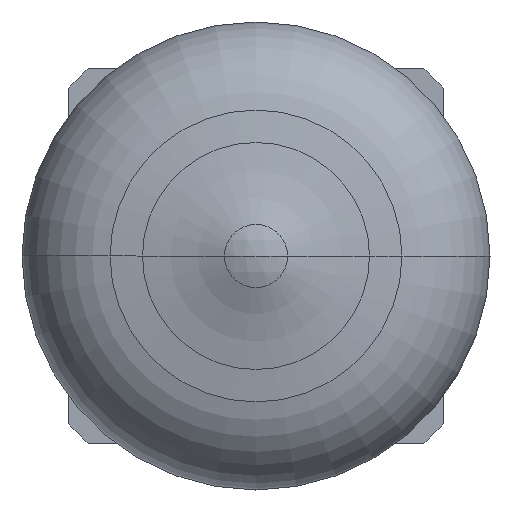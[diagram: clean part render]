
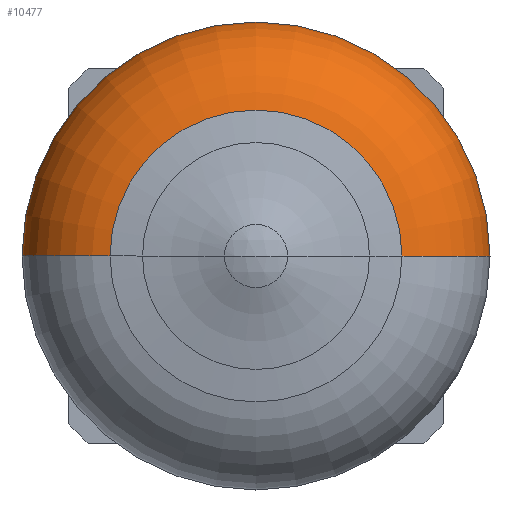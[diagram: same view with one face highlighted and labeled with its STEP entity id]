
A CAD part, left-side view. The second image highlights one B-rep face of the part: STEP entity #10477.
In plain terms, the highlighted toroidal (fillet/blend) face has major radius 2.375 mm and minor radius 2 mm.
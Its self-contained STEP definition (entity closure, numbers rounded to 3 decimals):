
#15 = EDGE_CURVE ( 'NONE', #3049, #8293, #315, .T. ) ;
#315 = CIRCLE ( 'NONE', #3400, 2. ) ;
#380 = DIRECTION ( 'NONE',  ( 0., 0., 1. ) ) ;
#392 = AXIS2_PLACEMENT_3D ( 'NONE', #6611, #1647, #7450 ) ;
#610 = VERTEX_POINT ( 'NONE', #5917 ) ;
#723 = DIRECTION ( 'NONE',  ( 0., 0., -1. ) ) ;
#936 = TOROIDAL_SURFACE ( 'NONE', #10089, 2.375, 2. ) ;
#1383 = ORIENTED_EDGE ( 'NONE', *, *, #10015, .T. ) ;
#1647 = DIRECTION ( 'NONE',  ( -1., 0., 0. ) ) ;
#2573 = DIRECTION ( 'NONE',  ( -1., 0., 0. ) ) ;
#2953 = DIRECTION ( 'NONE',  ( 0., -1., 0. ) ) ;
#3001 = ORIENTED_EDGE ( 'NONE', *, *, #10440, .F. ) ;
#3049 = VERTEX_POINT ( 'NONE', #10442 ) ;
#3400 = AXIS2_PLACEMENT_3D ( 'NONE', #7331, #380, #2953 ) ;
#3419 = CIRCLE ( 'NONE', #7886, 2. ) ;
#4070 = CARTESIAN_POINT ( 'NONE',  ( -9.188, 0., 0. ) ) ;
#4325 = CIRCLE ( 'NONE', #392, 4.375 ) ;
#4360 = EDGE_CURVE ( 'NONE', #4362, #8293, #10606, .T. ) ;
#4362 = VERTEX_POINT ( 'NONE', #6687 ) ;
#5085 = FACE_OUTER_BOUND ( 'NONE', #10711, .T. ) ;
#5679 = CARTESIAN_POINT ( 'NONE',  ( -9.188, -2.375, 0. ) ) ;
#5710 = DIRECTION ( 'NONE',  ( 0., -1., 0. ) ) ;
#5917 = CARTESIAN_POINT ( 'NONE',  ( -9.188, -4.375, 0. ) ) ;
#6390 = CARTESIAN_POINT ( 'NONE',  ( -11.157, 2.728, 0. ) ) ;
#6532 = DIRECTION ( 'NONE',  ( -1., 0., 0. ) ) ;
#6611 = CARTESIAN_POINT ( 'NONE',  ( -9.188, 0., 0. ) ) ;
#6687 = CARTESIAN_POINT ( 'NONE',  ( -11.157, -2.728, 0. ) ) ;
#7331 = CARTESIAN_POINT ( 'NONE',  ( -9.188, 2.375, 0. ) ) ;
#7450 = DIRECTION ( 'NONE',  ( 0., -1., 0. ) ) ;
#7527 = CARTESIAN_POINT ( 'NONE',  ( -11.157, 0., 0. ) ) ;
#7886 = AXIS2_PLACEMENT_3D ( 'NONE', #5679, #723, #6532 ) ;
#8293 = VERTEX_POINT ( 'NONE', #6390 ) ;
#8356 = DIRECTION ( 'NONE',  ( 0., -1., 0. ) ) ;
#8902 = ORIENTED_EDGE ( 'NONE', *, *, #15, .T. ) ;
#9535 = AXIS2_PLACEMENT_3D ( 'NONE', #7527, #2573, #8356 ) ;
#10015 = EDGE_CURVE ( 'NONE', #610, #3049, #4325, .T. ) ;
#10089 = AXIS2_PLACEMENT_3D ( 'NONE', #4070, #10673, #5710 ) ;
#10440 = EDGE_CURVE ( 'NONE', #610, #4362, #3419, .T. ) ;
#10442 = CARTESIAN_POINT ( 'NONE',  ( -9.188, 4.375, 0. ) ) ;
#10477 = ADVANCED_FACE ( 'NONE', ( #5085 ), #936, .T. ) ;
#10504 = ORIENTED_EDGE ( 'NONE', *, *, #4360, .F. ) ;
#10606 = CIRCLE ( 'NONE', #9535, 2.728 ) ;
#10673 = DIRECTION ( 'NONE',  ( -1., 0., 0. ) ) ;
#10711 = EDGE_LOOP ( 'NONE', ( #1383, #8902, #10504, #3001 ) ) ;
